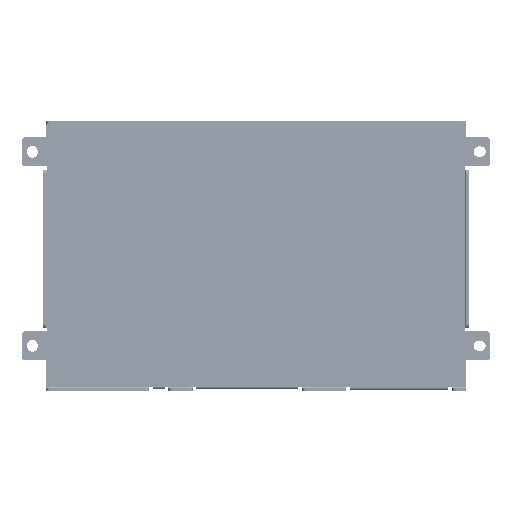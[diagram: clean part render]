
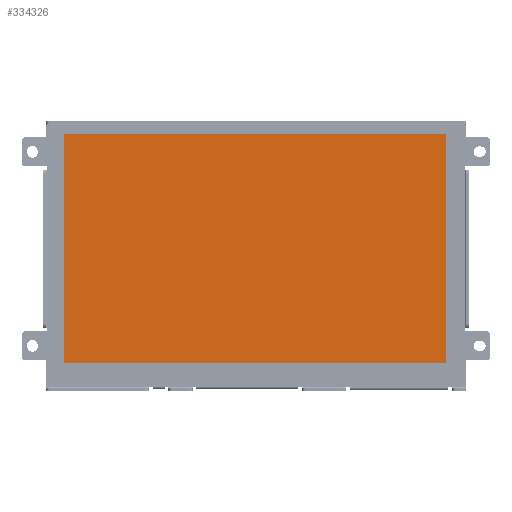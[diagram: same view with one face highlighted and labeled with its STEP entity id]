
A CAD part, top view. The second image highlights one B-rep face of the part: STEP entity #334326.
In plain terms, the highlighted planar face has unit normal (0, 0, 1).
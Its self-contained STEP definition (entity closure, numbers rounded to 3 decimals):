
#10445=PLANE('',#351301);
#23383=FACE_OUTER_BOUND('',#39780,.T.);
#39780=EDGE_LOOP('',(#237153,#237154,#237155,#237156));
#57370=LINE('',#459007,#100399);
#57374=LINE('',#459014,#100403);
#57377=LINE('',#459020,#100406);
#57379=LINE('',#459023,#100408);
#100399=VECTOR('',#373666,10.);
#100403=VECTOR('',#373672,10.);
#100406=VECTOR('',#373677,10.);
#100408=VECTOR('',#373681,10.);
#148233=VERTEX_POINT('',#459004);
#148234=VERTEX_POINT('',#459006);
#148236=VERTEX_POINT('',#459012);
#148238=VERTEX_POINT('',#459018);
#186036=EDGE_CURVE('',#148233,#148234,#57370,.T.);
#186040=EDGE_CURVE('',#148236,#148233,#57374,.T.);
#186043=EDGE_CURVE('',#148238,#148236,#57377,.T.);
#186045=EDGE_CURVE('',#148234,#148238,#57379,.T.);
#237153=ORIENTED_EDGE('',*,*,#186045,.F.);
#237154=ORIENTED_EDGE('',*,*,#186036,.F.);
#237155=ORIENTED_EDGE('',*,*,#186040,.F.);
#237156=ORIENTED_EDGE('',*,*,#186043,.F.);
#334326=ADVANCED_FACE('',(#23383),#10445,.F.);
#351301=AXIS2_PLACEMENT_3D('',#459024,#373682,#373683);
#373666=DIRECTION('',(1.,0.,0.));
#373672=DIRECTION('',(0.,1.,0.));
#373677=DIRECTION('',(-1.,0.,0.));
#373681=DIRECTION('',(0.,-1.,0.));
#373682=DIRECTION('center_axis',(0.,0.,-1.));
#373683=DIRECTION('ref_axis',(-1.,0.,0.));
#459004=CARTESIAN_POINT('',(-55.3,33.05,1.465));
#459006=CARTESIAN_POINT('',(54.7,33.05,1.465));
#459007=CARTESIAN_POINT('',(54.7,33.05,1.465));
#459012=CARTESIAN_POINT('',(-55.3,-33.05,1.465));
#459014=CARTESIAN_POINT('',(-55.3,33.05,1.465));
#459018=CARTESIAN_POINT('',(54.7,-33.05,1.465));
#459020=CARTESIAN_POINT('',(-55.3,-33.05,1.465));
#459023=CARTESIAN_POINT('',(54.7,-33.05,1.465));
#459024=CARTESIAN_POINT('Origin',(-0.3,0.,1.465));
